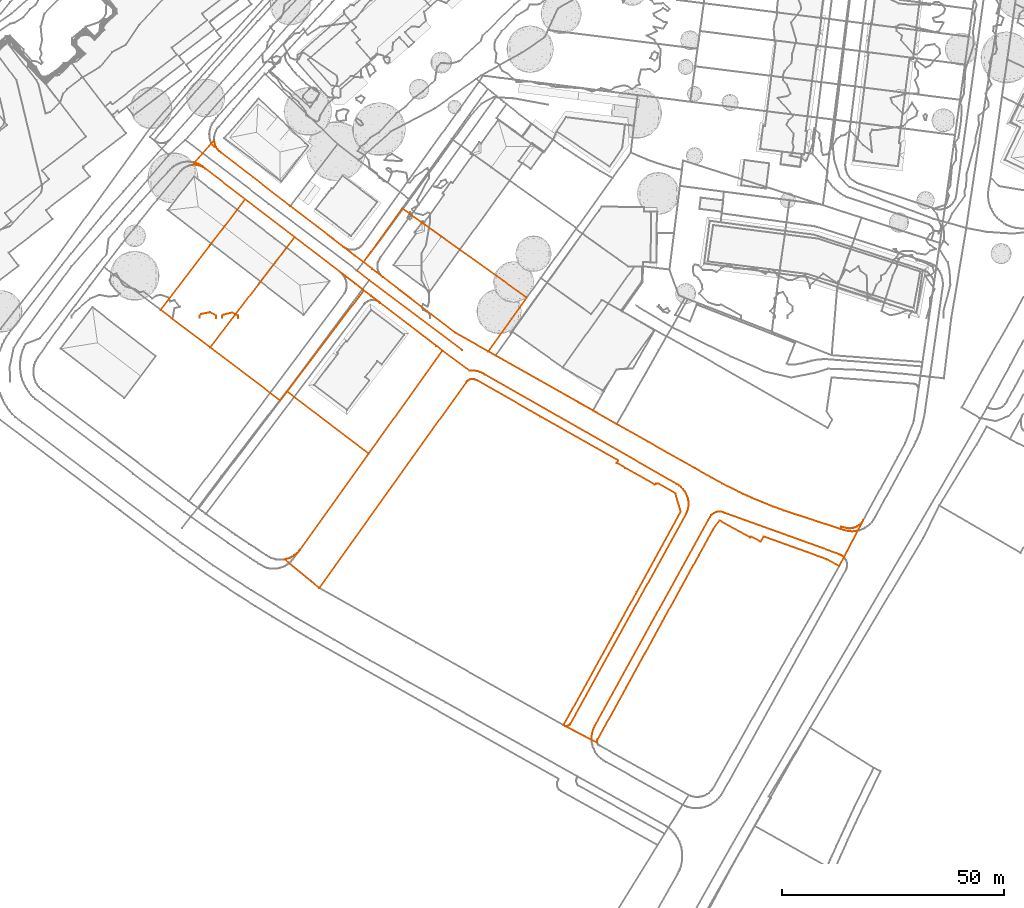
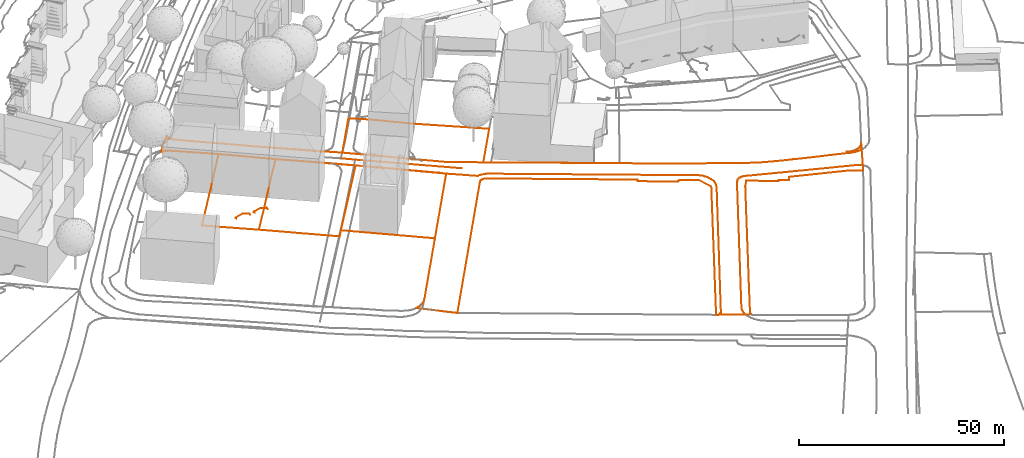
# Not in any storey, part 112 of 494: 10 proxies.
"""IFC2X3 model written with IfcOpenShell, lengths in metres."""

from ifc_helpers import new_model, entity, si_unit, frame, origin_with_axes, place, context, subcontext, project, element, save


model = new_model("IFC2X3")

# Units and contexts
model_context = context("Model", 3, precision=1e-05, world=origin_with_axes())
body_context = subcontext(model_context, "Body", "Model", "MODEL_VIEW")
ifc_project = project(units=[si_unit("AREAUNIT", "SQUARE_METRE"), si_unit("LENGTHUNIT", "METRE")], contexts=[model_context])

# Proxies
proxy_1_placement = place(None, frame((343.7087320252, 9.3407428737, 503.198), z_axis=(0.0, 0.0, 1.0), x_axis=(1.0, 0.0, 0.0)))
element("IfcBuildingElementProxy", 1, at=proxy_1_placement, Name="Road 83", ObjectType="NOTDEFINED", context=body_context, shape_type="GeometricCurveSet", body=[
    entity("IfcGeometricCurveSet", [entity("IfcPolyline", [entity("IfcCartesianPoint", [0.0, 0.0, 0.0]), entity("IfcCartesianPoint", [2.7899999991, -2.2019999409, -0.034])])]),
])
proxy_2_placement = place(None, frame((346.4987320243, 7.1387429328, 503.164), z_axis=(0.0, 0.0, 1.0), x_axis=(1.0, 0.0, 0.0)))
element("IfcBuildingElementProxy", 2, at=proxy_2_placement, Name="Road 121", ObjectType="NOTDEFINED", context=body_context, shape_type="GeometricCurveSet", body=[
    entity("IfcGeometricCurveSet", [entity("IfcPolyline", [entity("IfcCartesianPoint", [0.0, 0.0, 0.0]), entity("IfcCartesianPoint", [20.8520000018, -15.7129995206, -0.331])])]),
])
proxy_3_placement = place(None, frame((307.156732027, 33.6417160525, 503.4232884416), z_axis=(0.0, 0.0, 1.0), x_axis=(1.0, 0.0, 0.0)))
element("IfcBuildingElementProxy", 3, at=proxy_3_placement, Name="Roads Outline 140", ObjectType="NOTDEFINED", context=body_context, shape_type="GeometricCurveSet", body=[
    entity("IfcGeometricCurveSet", [entity("IfcPolyline", [entity("IfcCartesianPoint", [0.0, 0.0, 0.0]), entity("IfcCartesianPoint", [3.8489999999, 4.3099999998, -0.1871414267]), entity("IfcCartesianPoint", [4.1109999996, 3.9399999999, -0.1864450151]), entity("IfcCartesianPoint", [4.4249999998, 3.6129999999, -0.1718847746]), entity("IfcCartesianPoint", [5.5499999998, 2.6039999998, -0.1417058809]), entity("IfcCartesianPoint", [5.9929999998, 2.2059999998, -0.1319740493]), entity("IfcCartesianPoint", [21.5609999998, -9.804, -0.2931144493]), entity("IfcCartesianPoint", [33.5899999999, -19.0410000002, -0.3129245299]), entity("IfcCartesianPoint", [36.0689999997, -20.9440000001, -0.1927102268]), entity("IfcCartesianPoint", [38.048, -22.4640000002, -0.1687606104]), entity("IfcCartesianPoint", [39.9399999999, -23.9160000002, -0.2253374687]), entity("IfcCartesianPoint", [40.0119999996, -23.9710000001, -0.2275155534]), entity("IfcCartesianPoint", [40.0359999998, -23.9900000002, -0.2274221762]), entity("IfcCartesianPoint", [42.4419999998, -25.8380000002, -0.2662665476]), entity("IfcCartesianPoint", [58.6749999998, -38.304, -0.6300675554]), entity("IfcCartesianPoint", [66.1139999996, -42.5140000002, -0.7186487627]), entity("IfcCartesianPoint", [67.7529999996, -43.4410000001, -0.7298038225]), entity("IfcCartesianPoint", [67.7749999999, -43.4530000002, -0.7299568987]), entity("IfcCartesianPoint", [86.2909999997, -53.9210000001, -1.0277244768]), entity("IfcCartesianPoint", [89.6709999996, -55.8330000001, -1.0697789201]), entity("IfcCartesianPoint", [95.051, -58.8740000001, -1.1807539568]), entity("IfcCartesianPoint", [101.9499999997, -62.7740000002, -1.331573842]), entity("IfcCartesianPoint", [112.639, -68.824, -1.358018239]), entity("IfcCartesianPoint", [116.3979999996, -70.9340000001, -1.3292663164]), entity("IfcCartesianPoint", [118.7319999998, -72.2170000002, -1.3108608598]), entity("IfcCartesianPoint", [121.0979999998, -73.4370000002, -1.3740447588]), entity("IfcCartesianPoint", [123.497, -74.594, -1.4907322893]), entity("IfcCartesianPoint", [124.4149999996, -75.0140000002, -1.5196667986]), entity("IfcCartesianPoint", [125.3369999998, -75.4240000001, -1.5084368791]), entity("IfcCartesianPoint", [127.73, -76.4410000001, -1.4612268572]), entity("IfcCartesianPoint", [130.1489999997, -77.395, -1.4247852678]), entity("IfcCartesianPoint", [132.5909999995, -78.2860000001, -1.3975743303]), entity("IfcCartesianPoint", [135.0559999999, -79.1140000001, -1.4336709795]), entity("IfcCartesianPoint", [145.4149999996, -82.483, -1.4929009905]), entity("IfcCartesianPoint", [146.1309999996, -82.7270000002, -1.5213212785]), entity("IfcCartesianPoint", [146.75, -82.8920000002, -1.5193188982]), entity("IfcCartesianPoint", [147.3829999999, -82.9890000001, -1.5228280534]), entity("IfcCartesianPoint", [148.0229999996, -83.0170000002, -1.530572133]), entity("IfcCartesianPoint", [148.6619999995, -82.9750000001, -1.5351743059]), entity("IfcCartesianPoint", [149.2929999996, -82.8630000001, -1.5462764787]), entity("IfcCartesianPoint", [146.1869999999, -88.7950000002, -1.5211401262]), entity("IfcCartesianPoint", [145.9039999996, -88.5480000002, -1.5161213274]), entity("IfcCartesianPoint", [145.5859999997, -88.3470000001, -1.5010209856]), entity("IfcCartesianPoint", [145.2419999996, -88.1970000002, -1.4846860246]), entity("IfcCartesianPoint", [119.3319999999, -78.8550000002, -1.3100009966]), entity("IfcCartesianPoint", [118.96, -78.692, -1.3069852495]), entity("IfcCartesianPoint", [118.5649999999, -78.5920000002, -1.3136995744]), entity("IfcCartesianPoint", [118.1599999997, -78.557, -1.3205838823]), entity("IfcCartesianPoint", [117.7549999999, -78.5900000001, -1.3245214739]), entity("IfcCartesianPoint", [117.3599999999, -78.6880000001, -1.3268600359]), entity("IfcCartesianPoint", [116.963, -78.8630000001, -1.3289042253]), entity("IfcCartesianPoint", [116.6029999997, -79.1050000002, -1.3291349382]), entity("IfcCartesianPoint", [116.2909999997, -79.4060000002, -1.3293348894]), entity("IfcCartesianPoint", [116.0359999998, -79.7570000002, -1.329498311]), entity("IfcCartesianPoint", [115.5469999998, -80.574, -1.3416009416]), entity("IfcCartesianPoint", [90.0609999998, -126.8380000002, -1.0746348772]), entity("IfcCartesianPoint", [89.7929999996, -127.425, -1.0712979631]), entity("IfcCartesianPoint", [89.5899999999, -128.037, -1.0687703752]), entity("IfcCartesianPoint", [89.4549999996, -128.6670000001, -1.067089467]), entity("IfcCartesianPoint", [89.3879999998, -129.3080000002, -1.0662552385]), entity("IfcCartesianPoint", [89.3909999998, -129.9530000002, -1.066292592]), entity("IfcCartesianPoint", [83.4619999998, -126.8660000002, -0.9925306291]), entity("IfcCartesianPoint", [83.693, -126.868, -0.9954068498]), entity("IfcCartesianPoint", [83.9209999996, -126.827, -0.998245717]), entity("IfcCartesianPoint", [84.1359999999, -126.7420000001, -1.0009192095]), entity("IfcCartesianPoint", [84.3809999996, -126.577, -1.0039622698]), entity("IfcCartesianPoint", [84.5779999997, -126.3570000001, -1.0064091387]), entity("IfcCartesianPoint", [110.7009999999, -78.9990000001, -1.3367808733]), entity("IfcCartesianPoint", [110.9209999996, -78.4670000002, -1.3533909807]), entity("IfcCartesianPoint", [111.0799999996, -77.9130000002, -1.3612615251]), entity("IfcCartesianPoint", [111.1739999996, -77.3450000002, -1.3617721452]), entity("IfcCartesianPoint", [111.2029999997, -76.77, -1.361929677]), entity("IfcCartesianPoint", [111.1669999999, -76.1950000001, -1.3617341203]), entity("IfcCartesianPoint", [111.0659999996, -75.628, -1.3611854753]), entity("IfcCartesianPoint", [110.9009999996, -75.0760000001, -1.3518809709]), entity("IfcCartesianPoint", [110.6569999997, -74.5120000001, -1.3334588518]), entity("IfcCartesianPoint", [110.3459999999, -73.9820000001, -1.3099781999]), entity("IfcCartesianPoint", [109.9739999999, -73.4940000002, -1.2848969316]), entity("IfcCartesianPoint", [109.5439999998, -73.054, -1.2799234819]), entity("IfcCartesianPoint", [109.0649999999, -72.6700000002, -1.2743832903]), entity("IfcCartesianPoint", [108.5419999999, -72.3470000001, -1.3134158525]), entity("IfcCartesianPoint", [65.3559999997, -47.7000000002, -0.6958659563]), entity("IfcCartesianPoint", [64.8419999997, -47.4000000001, -0.6820744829]), entity("IfcCartesianPoint", [64.2959999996, -47.1630000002, -0.6740597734]), entity("IfcCartesianPoint", [63.727, -46.9900000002, -0.6627735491]), entity("IfcCartesianPoint", [63.1409999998, -46.885, -0.648323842]), entity("IfcCartesianPoint", [62.5469999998, -46.848, -0.6503843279]), entity("IfcCartesianPoint", [61.9529999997, -46.8810000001, -0.6559274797]), entity("IfcCartesianPoint", [55.7949999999, -42.334, -0.5831302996]), entity("IfcCartesianPoint", [54.4689999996, -41.3160000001, -0.497561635]), entity("IfcCartesianPoint", [54.3999999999, -41.263, -0.4919646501]), entity("IfcCartesianPoint", [41.8159999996, -31.608, -0.2221670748]), entity("IfcCartesianPoint", [41.6769999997, -31.5010000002, -0.2279527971]), entity("IfcCartesianPoint", [41.5079999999, -31.3720000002, -0.2325454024]), entity("IfcCartesianPoint", [39.7509999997, -30.023, -0.2371856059]), entity("IfcCartesianPoint", [39.7239999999, -30.003, -0.2375369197]), entity("IfcCartesianPoint", [38.1279999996, -28.7790000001, -0.1876651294]), entity("IfcCartesianPoint", [36.1679999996, -27.2760000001, -0.145223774]), entity("IfcCartesianPoint", [32.8559999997, -24.7350000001, -0.0756619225]), entity("IfcCartesianPoint", [22.5299999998, -16.814, -0.1136011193]), entity("IfcCartesianPoint", [11.4219999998, -8.2940000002, 0.126232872]), entity("IfcCartesianPoint", [2.3829999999, -1.3540000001, 0.050285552]), entity("IfcCartesianPoint", [1.7179999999, -0.7810000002, 0.0207719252]), entity("IfcCartesianPoint", [1.176, -0.456, 0.0116390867]), entity("IfcCartesianPoint", [0.6009999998, -0.1950000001, 4.83308e-05]), entity("IfcCartesianPoint", [0.0, 0.0, 0.0])])]),
])
proxy_4_placement = place(None, frame((306.6797320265, 33.1077160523, 503.572954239), z_axis=(0.0, 0.0, 1.0), x_axis=(1.0, 0.0, 0.0)))
element("IfcBuildingElementProxy", 4, at=proxy_4_placement, Name="Cadastre 150", ObjectType="NOTDEFINED", context=body_context, shape_type="GeometricCurveSet", body=[
    entity("IfcGeometricCurveSet", [entity("IfcPolyline", [entity("IfcCartesianPoint", [0.0, 0.0, 0.0]), entity("IfcCartesianPoint", [4.9300000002, 5.52, -0.3117033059]), entity("IfcCartesianPoint", [5.0190000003, 4.983, -0.316126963]), entity("IfcCartesianPoint", [5.1810000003, 4.4630000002, -0.3133940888]), entity("IfcCartesianPoint", [5.412, 3.9700000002, -0.3027181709]), entity("IfcCartesianPoint", [5.7070000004, 3.513, -0.2964501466]), entity("IfcCartesianPoint", [6.0620000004, 3.101, -0.2906968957]), entity("IfcCartesianPoint", [6.4700000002, 2.74, -0.2816398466]), entity("IfcCartesianPoint", [22.0380000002, -9.2699999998, -0.4427802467]), entity("IfcCartesianPoint", [36.5460000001, -20.4099999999, -0.3423760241]), entity("IfcCartesianPoint", [38.5250000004, -21.9299999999, -0.3184264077]), entity("IfcCartesianPoint", [59.1520000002, -37.7699999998, -0.7797333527]), entity("IfcCartesianPoint", [66.591, -41.98, -0.86831456]), entity("IfcCartesianPoint", [95.5280000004, -58.3399999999, -1.3304197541]), entity("IfcCartesianPoint", [102.4270000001, -62.24, -1.4812396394]), entity("IfcCartesianPoint", [113.1160000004, -68.2899999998, -1.5076840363]), entity("IfcCartesianPoint", [116.875, -70.3999999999, -1.4789321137]), entity("IfcCartesianPoint", [119.2090000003, -71.683, -1.4605266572]), entity("IfcCartesianPoint", [121.5750000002, -72.9029999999, -1.5237105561]), entity("IfcCartesianPoint", [123.9740000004, -74.0599999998, -1.6403980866]), entity("IfcCartesianPoint", [124.892, -74.48, -1.6693325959]), entity("IfcCartesianPoint", [125.8140000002, -74.8899999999, -1.6581026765]), entity("IfcCartesianPoint", [128.2070000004, -75.9069999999, -1.6108926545]), entity("IfcCartesianPoint", [130.6260000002, -76.8609999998, -1.5744510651]), entity("IfcCartesianPoint", [133.068, -77.7519999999, -1.5472401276]), entity("IfcCartesianPoint", [135.5330000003, -78.5799999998, -1.5833367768]), entity("IfcCartesianPoint", [145.892, -81.9489999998, -1.6425667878]), entity("IfcCartesianPoint", [146.0620000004, -81.399, -1.6506392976]), entity("IfcCartesianPoint", [146.8420000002, -81.639, -1.6702301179]), entity("IfcCartesianPoint", [147.3130000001, -81.7589999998, -1.6687064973]), entity("IfcCartesianPoint", [147.7950000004, -81.8119999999, -1.6717063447]), entity("IfcCartesianPoint", [148.2810000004, -81.7969999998, -1.6775944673]), entity("IfcCartesianPoint", [148.7590000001, -81.7159999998, -1.6821032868]), entity("IfcCartesianPoint", [149.2220000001, -81.5689999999, -1.6854378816]), entity("IfcCartesianPoint", [149.6600000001, -81.3569999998, -1.6924980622]), entity("IfcCartesianPoint", [150.0650000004, -81.0859999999, -1.7051790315]), entity("IfcCartesianPoint", [150.4270000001, -80.7619999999, -1.7165136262]), entity("IfcCartesianPoint", [150.7420000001, -80.3899999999, -1.7099426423]), entity("IfcCartesianPoint", [151.0020000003, -79.9789999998, -1.7005719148]), entity("IfcCartesianPoint", [145.591, -90.3099999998, -1.628273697]), entity("IfcCartesianPoint", [142.9010000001, -88.7999999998, -1.5713876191]), entity("IfcCartesianPoint", [128.5730000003, -83.6449999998, -1.6130398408]), entity("IfcCartesianPoint", [127.9130000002, -84.8099999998, -1.6075370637]), entity("IfcCartesianPoint", [125.6980000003, -83.5999999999, -1.6627613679]), entity("IfcCartesianPoint", [125.5580000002, -83.855, -1.6683839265]), entity("IfcCartesianPoint", [118.6140000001, -80.0349999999, -1.4706406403]), entity("IfcCartesianPoint", [117.1740000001, -82.0599999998, -1.4787404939]), entity("IfcCartesianPoint", [114.0240000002, -87.7899999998, -1.4985066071]), entity("IfcCartesianPoint", [109.9340000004, -95.23, -1.4285830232]), entity("IfcCartesianPoint", [105.8330000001, -102.7, -1.5393636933]), entity("IfcCartesianPoint", [101.7430000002, -110.1499999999, -1.4682142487]), entity("IfcCartesianPoint", [97.6430000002, -117.5999999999, -1.4239263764]), entity("IfcCartesianPoint", [91.2520000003, -129.2709999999, -1.2331908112]), entity("IfcCartesianPoint", [91.1290000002, -129.517, -1.2316593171]), entity("IfcCartesianPoint", [91.0780000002, -129.7869999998, -1.2310243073]), entity("IfcCartesianPoint", [91.1020000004, -130.061, -1.2313231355]), entity("IfcCartesianPoint", [83.5330000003, -126.1209999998, -1.1371412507]), entity("IfcCartesianPoint", [94.9340000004, -105.3599999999, -1.2978729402]), entity("IfcCartesianPoint", [100.014, -96.1099999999, -1.4414889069]), entity("IfcCartesianPoint", [109.915, -78.0699999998, -1.4283632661]), entity("IfcCartesianPoint", [108.7350000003, -73.9399999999, -1.4865258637]), entity("IfcCartesianPoint", [104.9360000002, -71.76, -1.5168185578]), entity("IfcCartesianPoint", [104.7560000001, -71.6989999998, -1.5115066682]), entity("IfcCartesianPoint", [104.5660000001, -71.6909999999, -1.5058996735]), entity("IfcCartesianPoint", [104.3810000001, -71.7359999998, -1.5031074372]), entity("IfcCartesianPoint", [104.2170000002, -71.8319999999, -1.502006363]), entity("IfcCartesianPoint", [104.0860000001, -71.97, -1.5011268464]), entity("IfcCartesianPoint", [97.4470000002, -68.1899999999, -1.4216769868]), entity("IfcCartesianPoint", [95.4770000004, -67.0699999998, -1.3281316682]), entity("IfcCartesianPoint", [95.7970000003, -66.51, -1.3404432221]), entity("IfcCartesianPoint", [78.3090000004, -56.5999999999, -1.0734476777]), entity("IfcCartesianPoint", [63.9610000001, -48.4299999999, -0.806447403]), entity("IfcCartesianPoint", [63.6570000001, -48.2859999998, -0.7989513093]), entity("IfcCartesianPoint", [63.3310000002, -48.203, -0.7967991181]), entity("IfcCartesianPoint", [62.9940000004, -48.1839999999, -0.8003678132]), entity("IfcCartesianPoint", [62.6610000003, -48.23, -0.8038941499]), entity("IfcCartesianPoint", [62.3520000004, -48.335, -0.8055623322]), entity("IfcCartesianPoint", [62.0670000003, -48.4959999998, -0.8054492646]), entity("IfcCartesianPoint", [61.8170000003, -48.7069999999, -0.8053500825]), entity("IfcCartesianPoint", [61.611, -48.96, -0.8052683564]), entity("IfcCartesianPoint", [28.5700000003, -95.2209999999, -0.0899818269]), entity("IfcCartesianPoint", [20.7210000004, -88.791, 0.2484147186]), entity("IfcCartesianPoint", [21.3170000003, -88.6549999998, 0.2732601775]), entity("IfcCartesianPoint", [21.8940000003, -88.4539999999, 0.2724789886]), entity("IfcCartesianPoint", [22.4450000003, -88.1899999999, 0.2608933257]), entity("IfcCartesianPoint", [22.9640000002, -87.8659999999, 0.2254205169]), entity("IfcCartesianPoint", [23.443, -87.487, 0.1901036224]), entity("IfcCartesianPoint", [23.8770000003, -87.0569999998, 0.1581045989]), entity("IfcCartesianPoint", [24.2610000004, -86.581, 0.1297920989]), entity("IfcCartesianPoint", [39.6920000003, -65.0009999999, -0.1042332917]), entity("IfcCartesianPoint", [56.2720000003, -41.7999999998, -0.7327960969]), entity("IfcCartesianPoint", [38.605, -28.2449999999, -0.3373309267]), entity("IfcCartesianPoint", [23.0070000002, -16.2799999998, -0.2632669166]), entity("IfcCartesianPoint", [11.8990000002, -7.76, -0.0234329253]), entity("IfcCartesianPoint", [2.8600000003, -0.8199999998, -0.0993802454]), entity("IfcCartesianPoint", [2.4400000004, -0.5349999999, -0.1027654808]), entity("IfcCartesianPoint", [1.9870000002, -0.3049999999, -0.0954035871]), entity("IfcCartesianPoint", [1.5090000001, -0.1339999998, -0.0789374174]), entity("IfcCartesianPoint", [1.0130000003, -0.0249999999, -0.0606316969]), entity("IfcCartesianPoint", [0.5070000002, 0.02, -0.0283212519]), entity("IfcCartesianPoint", [0.0, 0.0, 0.0])])]),
])
proxy_5_placement = place(None, frame((345.2047320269, 11.1777160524, 503.2545278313), z_axis=(0.0, 0.0, 1.0), x_axis=(1.0, 0.0, 0.0)))
element("IfcBuildingElementProxy", 5, at=proxy_5_placement, Name="Cadastre 157", ObjectType="NOTDEFINED", context=body_context, shape_type="GeometricCurveSet", body=[
    entity("IfcGeometricCurveSet", [entity("IfcPolyline", [entity("IfcCartesianPoint", [0.0, 0.0, 0.0]), entity("IfcCartesianPoint", [8.6809999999, 12.1200000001, -0.1974689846]), entity("IfcCartesianPoint", [13.0959999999, 8.9610000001, -0.1844096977]), entity("IfcCartesianPoint", [21.753, 2.767, -0.7057910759]), entity("IfcCartesianPoint", [36.7369999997, -7.96, -0.9383237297]), entity("IfcCartesianPoint", [28.0659999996, -20.05, -0.5498881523]), entity("IfcCartesianPoint", [20.6269999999, -15.8399999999, -0.461306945]), entity("IfcCartesianPoint", [0.0, 0.0, 0.0])])]),
])
proxy_6_placement = place(None, frame((310.6767320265, -7.9832839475, 504.0332868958), z_axis=(0.0, 0.0, 1.0), x_axis=(1.0, 0.0, 0.0)))
element("IfcBuildingElementProxy", 6, at=proxy_6_placement, Name="Cadastre 158", ObjectType="NOTDEFINED", context=body_context, shape_type="GeometricCurveSet", body=[
    entity("IfcGeometricCurveSet", [entity("IfcPolyline", [entity("IfcCartesianPoint", [0.0, 0.0, 0.0]), entity("IfcCartesianPoint", [11.0390000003, 14.4069999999, -0.3287241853]), entity("IfcCartesianPoint", [17.1550000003, 22.3899999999, -0.4508739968]), entity("IfcCartesianPoint", [19.0100000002, 24.811, -0.7235995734]), entity("IfcCartesianPoint", [34.608, 12.8459999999, -0.7976635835]), entity("IfcCartesianPoint", [17.3370000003, -9.9500000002, -0.1863638]), entity("IfcCartesianPoint", [15.807, -11.9700000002, -0.2570493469]), entity("IfcCartesianPoint", [0.0, 0.0, 0.0])])]),
])
proxy_7_placement = place(None, frame((328.0137320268, -17.9332839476, 503.8469230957), z_axis=(0.0, 0.0, 1.0), x_axis=(1.0, 0.0, 0.0)))
element("IfcBuildingElementProxy", 7, at=proxy_7_placement, Name="Cadastre 159", ObjectType="NOTDEFINED", context=body_context, shape_type="GeometricCurveSet", body=[
    entity("IfcGeometricCurveSet", [entity("IfcPolyline", [entity("IfcCartesianPoint", [0.0, 0.0, 0.0]), entity("IfcCartesianPoint", [17.2709999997, 22.7960000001, -0.6112997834]), entity("IfcCartesianPoint", [34.9380000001, 9.2410000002, -1.0067649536]), entity("IfcCartesianPoint", [18.358, -13.96, -0.3782021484]), entity("IfcCartesianPoint", [1.6200000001, -1.22, -0.0478110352]), entity("IfcCartesianPoint", [0.0, 0.0, 0.0])])]),
])
proxy_8_placement = place(None, frame((299.5077320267, 0.4667160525, 504.0668057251), z_axis=(0.0, 0.0, 1.0), x_axis=(1.0, 0.0, 0.0)))
element("IfcBuildingElementProxy", 8, at=proxy_8_placement, Name="Cadastre 160", ObjectType="NOTDEFINED", context=body_context, shape_type="GeometricCurveSet", body=[
    entity("IfcGeometricCurveSet", [entity("IfcPolyline", [entity("IfcCartesianPoint", [0.0, 0.0, 0.0]), entity("IfcCartesianPoint", [11.1630000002, 14.564, -0.4166012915]), entity("IfcCartesianPoint", [17.307, 22.5789999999, -0.3012304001]), entity("IfcCartesianPoint", [19.071, 24.8809999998, -0.5172844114]), entity("IfcCartesianPoint", [30.179, 16.361, -0.7571184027]), entity("IfcCartesianPoint", [28.324, 13.9399999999, -0.4843928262]), entity("IfcCartesianPoint", [22.2080000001, 5.9569999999, -0.3622430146]), entity("IfcCartesianPoint", [11.1689999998, -8.45, -0.0335188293]), entity("IfcCartesianPoint", [0.0, 0.0, 0.0])])]),
])
proxy_9_placement = place(None, frame((308.2934157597, -1.3292839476, 504.0), z_axis=(0.0, 0.0, 1.0), x_axis=(1.0, 0.0, 0.0)))
element("IfcBuildingElementProxy", 9, at=proxy_9_placement, Name="Contour Line 504.0 m", ObjectType="NOTDEFINED", context=body_context, shape_type="GeometricCurveSet", body=[
    entity("IfcGeometricCurveSet", [entity("IfcPolyline", [entity("IfcCartesianPoint", [0.0, 0.0, 0.0]), entity("IfcCartesianPoint", [0.0, 0.5, 0.0]), entity("IfcCartesianPoint", [0.384316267, 0.8933665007, 0.0]), entity("IfcCartesianPoint", [2.384316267, 1.2598757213, 0.0]), entity("IfcCartesianPoint", [3.6883527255, 0.5, 0.0]), entity("IfcCartesianPoint", [3.6883527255, 0.0, 0.0])])]),
])
proxy_10_placement = place(None, frame((313.3647500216, -1.3292839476, 504.0), z_axis=(0.0, 0.0, 1.0), x_axis=(1.0, 0.0, 0.0)))
element("IfcBuildingElementProxy", 10, at=proxy_10_placement, Name="Contour Line 504.0 m", ObjectType="NOTDEFINED", context=body_context, shape_type="GeometricCurveSet", body=[
    entity("IfcGeometricCurveSet", [entity("IfcPolyline", [entity("IfcCartesianPoint", [0.0, 0.0, 0.0]), entity("IfcCartesianPoint", [0.0, 0.5, 0.0]), entity("IfcCartesianPoint", [0.3129820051, 0.7457114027, 0.0]), entity("IfcCartesianPoint", [2.3129820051, 1.1945718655, 0.0]), entity("IfcCartesianPoint", [3.6456630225, 0.5, 0.0]), entity("IfcCartesianPoint", [3.6456630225, 0.0, 0.0])])]),
])

save(model, "model.ifc")
